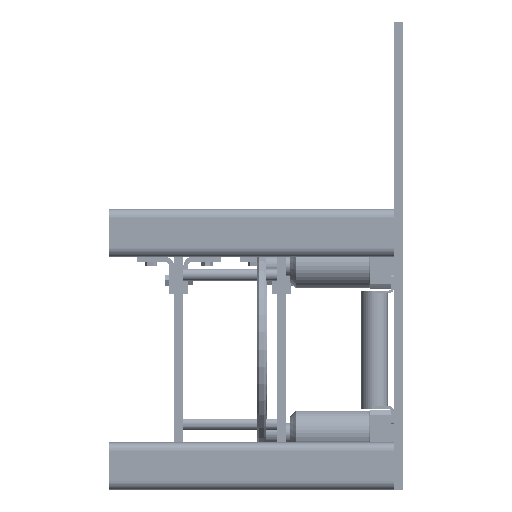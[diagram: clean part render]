
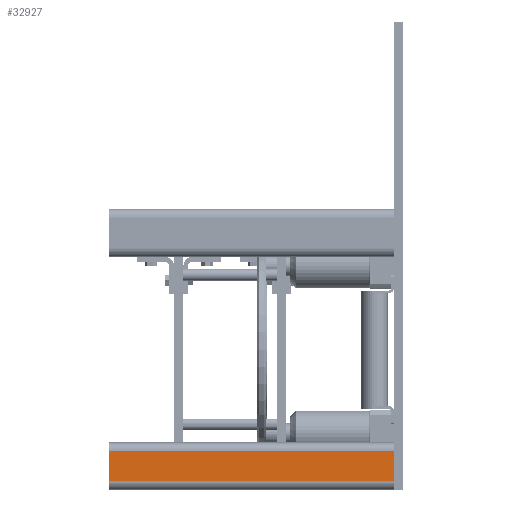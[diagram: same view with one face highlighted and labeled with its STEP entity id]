
A CAD part, left-side view. The second image highlights one B-rep face of the part: STEP entity #32927.
In plain terms, the highlighted planar face has unit normal (-1, 0, 0) as drawn and (0, -1, 0) by its records, which use the part's own axes.
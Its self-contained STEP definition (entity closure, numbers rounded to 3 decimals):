
#454 = CARTESIAN_POINT ( 'NONE',  ( 41.275, 0., 304.8 ) ) ;
#639 = DIRECTION ( 'NONE',  ( 0., 0., 1. ) ) ;
#1470 = LINE ( 'NONE', #7361, #35178 ) ;
#3623 = DIRECTION ( 'NONE',  ( 1., 0., 0. ) ) ;
#3815 = LINE ( 'NONE', #18692, #22141 ) ;
#4084 = CARTESIAN_POINT ( 'NONE',  ( 41.275, 0., 304.8 ) ) ;
#4615 = ORIENTED_EDGE ( 'NONE', *, *, #9040, .F. ) ;
#6942 = VERTEX_POINT ( 'NONE', #32055 ) ;
#7361 = CARTESIAN_POINT ( 'NONE',  ( 9.525, 0., 304.8 ) ) ;
#8471 = DIRECTION ( 'NONE',  ( 1., 0., 0. ) ) ;
#9040 = EDGE_CURVE ( 'NONE', #24408, #6942, #3815, .T. ) ;
#9750 = DIRECTION ( 'NONE',  ( 0., 0., -1. ) ) ;
#10491 = DIRECTION ( 'NONE',  ( 0., 0., -1. ) ) ;
#12302 = LINE ( 'NONE', #4084, #17534 ) ;
#15918 = DIRECTION ( 'NONE',  ( 0., 1., 0. ) ) ;
#16129 = EDGE_CURVE ( 'NONE', #6942, #18543, #12302, .T. ) ;
#17534 = VECTOR ( 'NONE', #9750, 1000. ) ;
#17644 = AXIS2_PLACEMENT_3D ( 'NONE', #454, #15918, #639 ) ;
#18543 = VERTEX_POINT ( 'NONE', #30405 ) ;
#18692 = CARTESIAN_POINT ( 'NONE',  ( 41.275, 0., 304.8 ) ) ;
#21235 = VERTEX_POINT ( 'NONE', #35057 ) ;
#22141 = VECTOR ( 'NONE', #3623, 1000. ) ;
#22984 = EDGE_CURVE ( 'NONE', #21235, #18543, #29987, .T. ) ;
#24408 = VERTEX_POINT ( 'NONE', #35596 ) ;
#25030 = EDGE_CURVE ( 'NONE', #24408, #21235, #1470, .T. ) ;
#25267 = VECTOR ( 'NONE', #8471, 1000. ) ;
#27249 = ORIENTED_EDGE ( 'NONE', *, *, #16129, .F. ) ;
#29220 = CARTESIAN_POINT ( 'NONE',  ( 41.275, 0., 0. ) ) ;
#29987 = LINE ( 'NONE', #29220, #25267 ) ;
#30405 = CARTESIAN_POINT ( 'NONE',  ( 41.275, 0., 0. ) ) ;
#30818 = PLANE ( 'NONE',  #17644 ) ;
#32055 = CARTESIAN_POINT ( 'NONE',  ( 41.275, 0., 304.8 ) ) ;
#32299 = ORIENTED_EDGE ( 'NONE', *, *, #25030, .T. ) ;
#32927 = ADVANCED_FACE ( 'NONE', ( #33732 ), #30818, .F. ) ;
#33438 = EDGE_LOOP ( 'NONE', ( #37222, #27249, #4615, #32299 ) ) ;
#33732 = FACE_OUTER_BOUND ( 'NONE', #33438, .T. ) ;
#35057 = CARTESIAN_POINT ( 'NONE',  ( 9.525, 0., 0. ) ) ;
#35178 = VECTOR ( 'NONE', #10491, 1000. ) ;
#35596 = CARTESIAN_POINT ( 'NONE',  ( 9.525, 0., 304.8 ) ) ;
#37222 = ORIENTED_EDGE ( 'NONE', *, *, #22984, .T. ) ;
